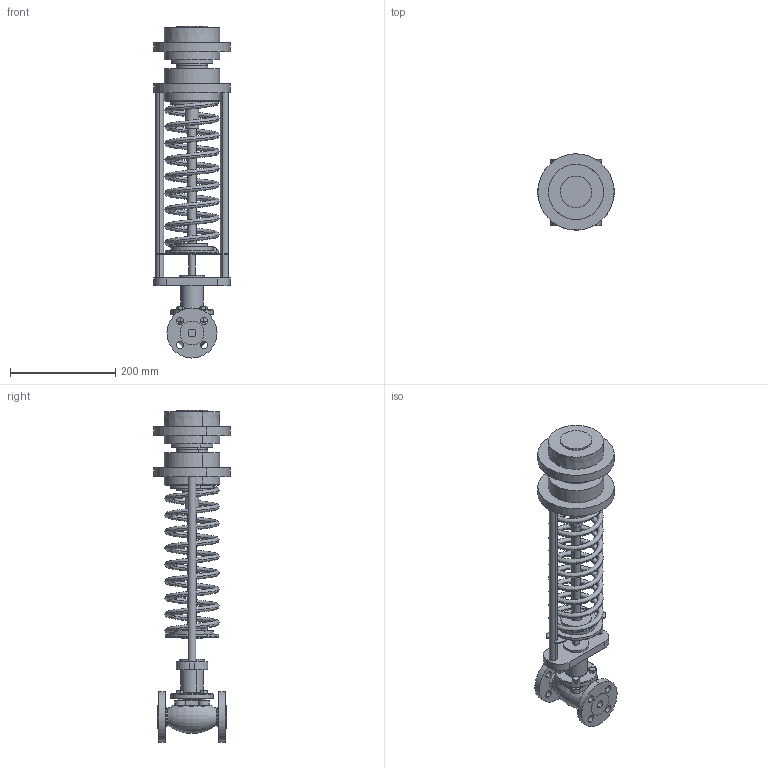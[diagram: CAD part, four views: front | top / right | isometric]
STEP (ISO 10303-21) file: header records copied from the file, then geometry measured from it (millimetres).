
FILE_DESCRIPTION (( 'STEP AP214' ), '1' );
FILE_NAME ('RDT-S, RDT-B DN-15 (0.1).STEP', '2025-12-12T09:12:28', ( '' ), ( '' ), 'SwSTEP 2.0', 'SolidWorks 2023', '' );
FILE_SCHEMA (( 'AUTOMOTIVE_DESIGN' ));
Length unit declared in the file: millimetre
Products named in the file (1): RDT-S, RDT-B DN-15 (0.1)
Bounding box: 145 x 144.86 x 630.5 mm (x, y, z)
Volume: 2582835.3 mm3; surface area: 362415.4 mm2
Topology: 1 solids, 2 shells, 267 faces, 642 edges, 413 vertices
Faces by surface type: cylinder 116, plane 97, cone 44, torus 8, bspline 2
Entity records: 11385 total; most frequent: CARTESIAN_POINT 4885, DIRECTION 1442, ORIENTED_EDGE 1284, EDGE_CURVE 642, AXIS2_PLACEMENT_3D 590, VERTEX_POINT 413, EDGE_LOOP 333, CIRCLE 324
